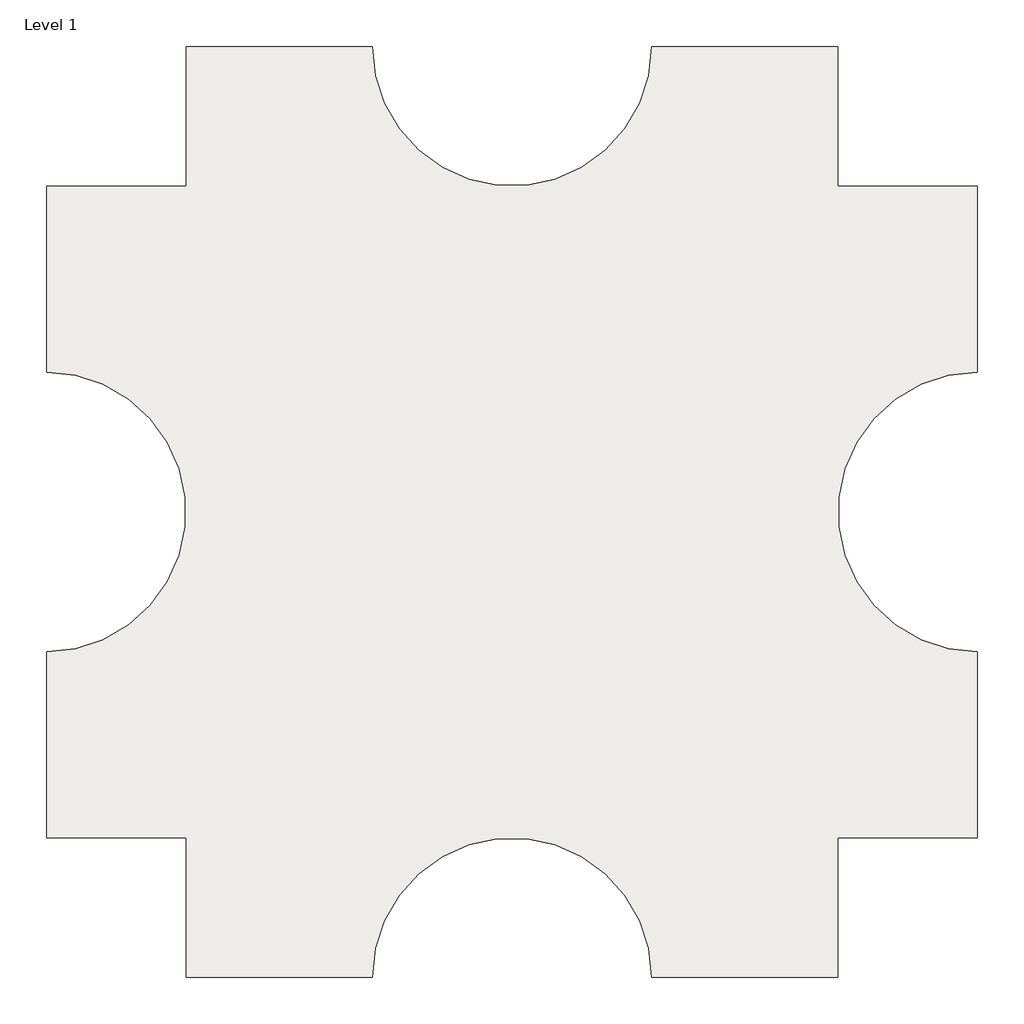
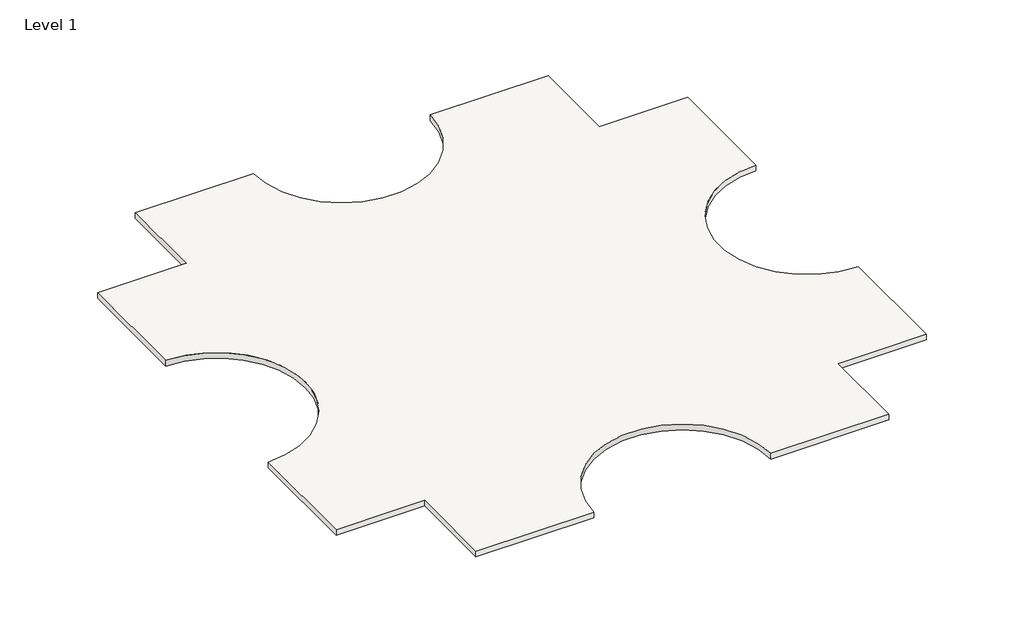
# One storey: 1 slab.
"""IFC4 building model written with IfcOpenShell, lengths in millimetres."""

from ifc_helpers import new_model, si_unit, point, frame, frame_2d, origin, place, context, project, spatial, polyline, circle_curve, trimmed, segment, composite_curve, outline, extrude, element, save

model = new_model("IFC4")

# Units and contexts
model_context = context("Model", 3, world=origin())
ifc_project = project(units=[si_unit("LENGTHUNIT", "METRE", prefix="MILLI")], contexts=[model_context])

# Site, building, storey
site = spatial("IfcSite", under=ifc_project)
building = spatial("IfcBuilding", under=site)
storey = spatial("IfcBuildingStorey", under=building, Name="Level 1", Elevation=0.0)

# Slab
placement = place(None, origin())
element("IfcSlab", 1, ObjectType="Generic - 12\"", at=placement, inside=storey, context=model_context, shape_type="SweptSolid", body=[
    extrude(outline(composite_curve([segment(polyline([(-7150.3629456, 4479.6634547), (-7150.3629456, 9051.6634547), (-1054.3629456, 9051.6634547)]), True, "CONTINUOUS"), segment(trimmed(circle_curve(frame_2d((3517.6370544, 9051.6634547)), 4572.0), [point((-1054.3629456, 9051.6634547))], [point((8089.6370544, 9051.6634547))], True, "CARTESIAN"), True, "CONTINUOUS"), segment(polyline([(8089.6370544, 9051.6634547), (14185.6370544, 9051.6634547), (14185.6370544, 4479.6634547), (18757.6370544, 4479.6634547), (18757.6370544, -1616.3365453)]), True, "CONTINUOUS"), segment(trimmed(circle_curve(frame_2d((18757.6370544, -6188.3365453)), 4572.0), [point((18757.6370544, -1616.3365453))], [point((18757.6370544, -10760.3365453))], True, "CARTESIAN"), True, "CONTINUOUS"), segment(polyline([(18757.6370544, -10760.3365453), (18757.6370544, -16856.3365453), (14185.6370544, -16856.3365453), (14185.6370544, -21428.3365453), (8089.6370544, -21428.3365453)]), True, "CONTINUOUS"), segment(trimmed(circle_curve(frame_2d((3517.6370544, -21428.3365453)), 4572.0), [point((8089.6370544, -21428.3365453))], [point((-1054.3629456, -21428.3365453))], True, "CARTESIAN"), True, "CONTINUOUS"), segment(polyline([(-1054.3629456, -21428.3365453), (-7150.3629456, -21428.3365453), (-7150.3629456, -16856.3365453), (-11722.3629456, -16856.3365453), (-11722.3629456, -10760.3365453)]), True, "CONTINUOUS"), segment(trimmed(circle_curve(frame_2d((-11722.3629456, -6188.3365453)), 4572.0), [point((-11722.3629456, -10760.3365453))], [point((-11722.3629456, -1616.3365453))], True, "CARTESIAN"), True, "CONTINUOUS"), segment(polyline([(-11722.3629456, -1616.3365453), (-11722.3629456, 4479.6634547), (-7150.3629456, 4479.6634547)]), True, "CONTINUOUS")], self_intersect=False)), frame((0.0, 0.0, -304.8), z_axis=(0.0, 0.0, 1.0), x_axis=(1.0, 0.0, 0.0)), (0.0, 0.0, 1.0), 304.8),
])

save(model, "model.ifc")
